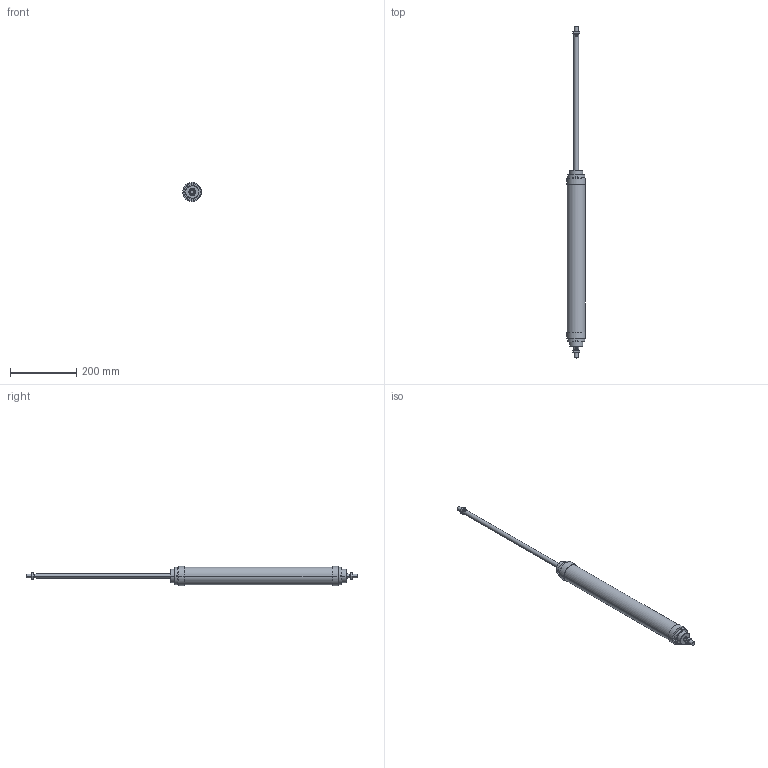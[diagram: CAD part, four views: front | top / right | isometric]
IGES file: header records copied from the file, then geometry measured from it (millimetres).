
Global section: file name: No Iges File Name specified; native system: AutoDesk Inventor R6.0; preprocessor: AutoDesk Inventor Iges Exporter R6.0; author: No Author specified; organization: No Organization specified; date: 20030403.073101; units: millimetre
Bounding box: 56.6 x 1002 x 57.85 mm (x, y, z)
Volume: 1265284.9 mm3; surface area: 173219.3 mm2
Topology: 6 solids, 6 shells, 182 faces, 424 edges, 264 vertices
Faces by surface type: plane 66, cone 52, bspline 30, cylinder 28, revolution 6
